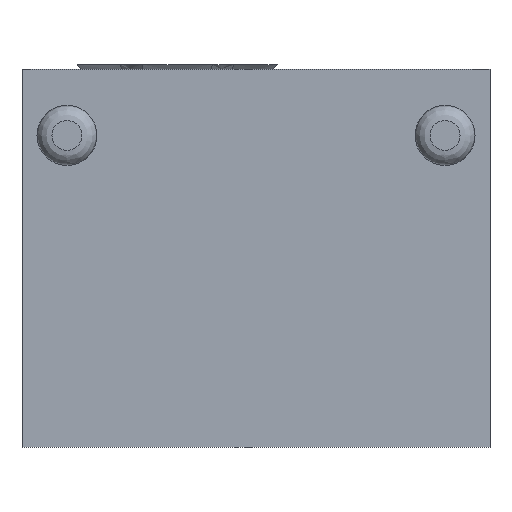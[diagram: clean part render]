
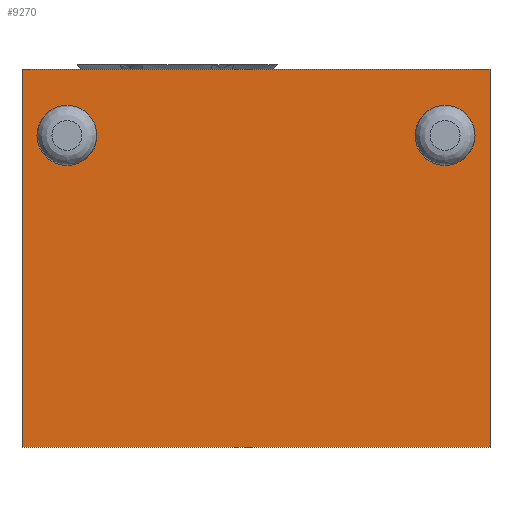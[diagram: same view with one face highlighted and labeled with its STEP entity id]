
A CAD part, front view. The second image highlights one B-rep face of the part: STEP entity #9270.
In plain terms, the highlighted planar face has unit normal (0, -1, 0).
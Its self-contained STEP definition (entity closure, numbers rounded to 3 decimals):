
#24=FACE_BOUND('',#3199,.T.);
#25=FACE_BOUND('',#3200,.T.);
#519=PLANE('',#10201);
#1216=LINE('',#19669,#1717);
#1283=LINE('',#21674,#1784);
#1284=LINE('',#21676,#1785);
#1285=LINE('',#21677,#1786);
#1717=VECTOR('',#11836,10.);
#1784=VECTOR('',#12157,10.);
#1785=VECTOR('',#12158,10.);
#1786=VECTOR('',#12159,10.);
#2630=FACE_OUTER_BOUND('',#3198,.T.);
#3198=EDGE_LOOP('',(#8064,#8065,#8066,#8067));
#3199=EDGE_LOOP('',(#8068));
#3200=EDGE_LOOP('',(#8069));
#3554=CIRCLE('',#10069,5.137);
#3556=CIRCLE('',#10073,5.137);
#4231=VERTEX_POINT('',#19611);
#4233=VERTEX_POINT('',#19619);
#4235=VERTEX_POINT('',#19624);
#4243=VERTEX_POINT('',#19667);
#4373=VERTEX_POINT('',#21673);
#4374=VERTEX_POINT('',#21675);
#5421=EDGE_CURVE('',#4231,#4231,#3554,.T.);
#5425=EDGE_CURVE('',#4233,#4233,#3556,.T.);
#5436=EDGE_CURVE('',#4243,#4235,#1216,.T.);
#5648=EDGE_CURVE('',#4235,#4373,#1283,.T.);
#5649=EDGE_CURVE('',#4374,#4243,#1284,.T.);
#5650=EDGE_CURVE('',#4373,#4374,#1285,.T.);
#8064=ORIENTED_EDGE('',*,*,#5648,.F.);
#8065=ORIENTED_EDGE('',*,*,#5436,.F.);
#8066=ORIENTED_EDGE('',*,*,#5649,.F.);
#8067=ORIENTED_EDGE('',*,*,#5650,.F.);
#8068=ORIENTED_EDGE('',*,*,#5421,.T.);
#8069=ORIENTED_EDGE('',*,*,#5425,.T.);
#9270=ADVANCED_FACE('',(#2630,#24,#25),#519,.F.);
#10069=AXIS2_PLACEMENT_3D('',#19612,#11817,#11818);
#10073=AXIS2_PLACEMENT_3D('',#19620,#11827,#11828);
#10201=AXIS2_PLACEMENT_3D('',#21672,#12155,#12156);
#11817=DIRECTION('center_axis',(0.,1.,0.));
#11818=DIRECTION('ref_axis',(0.,0.,-1.));
#11827=DIRECTION('center_axis',(0.,1.,0.));
#11828=DIRECTION('ref_axis',(0.,0.,-1.));
#11836=DIRECTION('',(1.,0.,0.));
#12155=DIRECTION('center_axis',(0.,1.,0.));
#12156=DIRECTION('ref_axis',(0.,0.,1.));
#12157=DIRECTION('',(0.,0.,-1.));
#12158=DIRECTION('',(0.,0.,1.));
#12159=DIRECTION('',(-1.,0.,0.));
#19611=CARTESIAN_POINT('',(-36.903,-46.225,68.572));
#19612=CARTESIAN_POINT('Origin',(-36.903,-46.225,63.435));
#19619=CARTESIAN_POINT('',(89.147,-46.225,68.572));
#19620=CARTESIAN_POINT('Origin',(89.147,-46.225,63.435));
#19624=CARTESIAN_POINT('',(104.147,-46.225,85.435));
#19667=CARTESIAN_POINT('',(-51.903,-46.225,85.435));
#19669=CARTESIAN_POINT('',(120.36,-46.225,85.435));
#21672=CARTESIAN_POINT('Origin',(7.699,-46.225,19.81));
#21673=CARTESIAN_POINT('',(104.147,-46.225,-40.615));
#21674=CARTESIAN_POINT('',(104.147,-46.225,52.623));
#21675=CARTESIAN_POINT('',(-51.903,-46.225,-40.615));
#21676=CARTESIAN_POINT('',(-51.903,-46.225,-10.402));
#21677=CARTESIAN_POINT('',(55.923,-46.225,-40.615));
